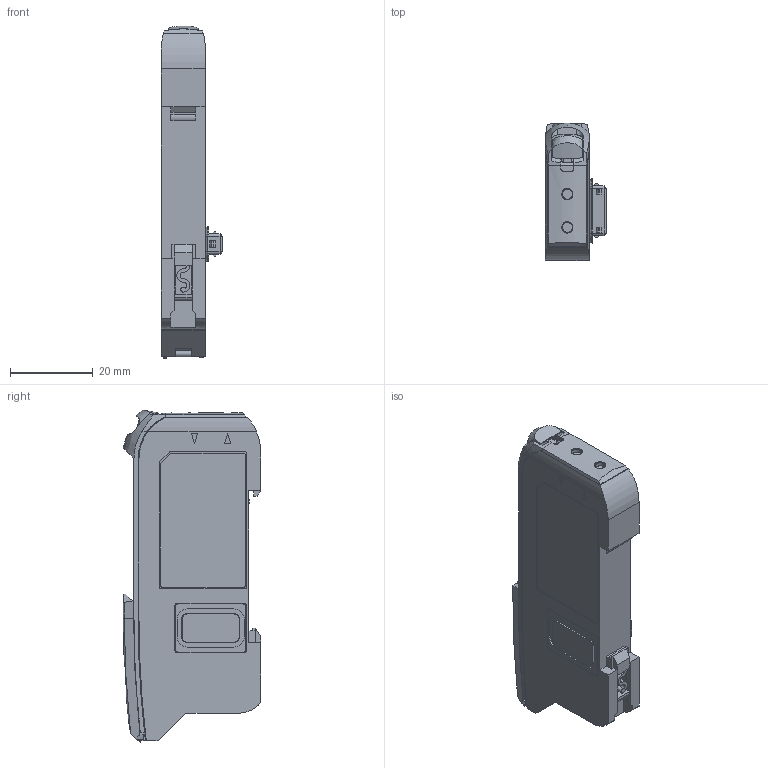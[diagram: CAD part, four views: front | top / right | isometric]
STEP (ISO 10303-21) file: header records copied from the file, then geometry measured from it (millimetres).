
FILE_DESCRIPTION (( 'STEP AP214' ), '1' );
FILE_NAME ('D4RF-TS-0.STEP', '2022-04-25T11:04:21', ( '' ), ( '' ), 'SwSTEP 2.0', 'SolidWorks 2021', '' );
FILE_SCHEMA (( 'AUTOMOTIVE_DESIGN' ));
Length unit declared in the file: millimetre
Products named in the file (3): 220425377; 220425361; D4RF-TS-0
Assembly tree (2 placements, depth 2):
  D4RF-TS-0
    220425377
    220425361
Bounding box: 14.72 x 33.2 x 80.1 mm (x, y, z)
Volume: 22717 mm3; surface area: 9505.2 mm2
Topology: 2 solids, 14 shells, 919 faces, 2370 edges, 1509 vertices
Faces by surface type: plane 449, cylinder 237, bspline 170, cone 63
Entity records: 43889 total; most frequent: CARTESIAN_POINT 12981, ORIENTED_EDGE 4692, DIRECTION 3581, EDGE_CURVE 2346, VERTEX_POINT 1509, LINE 1297, VECTOR 1297, AXIS2_PLACEMENT_3D 1142
